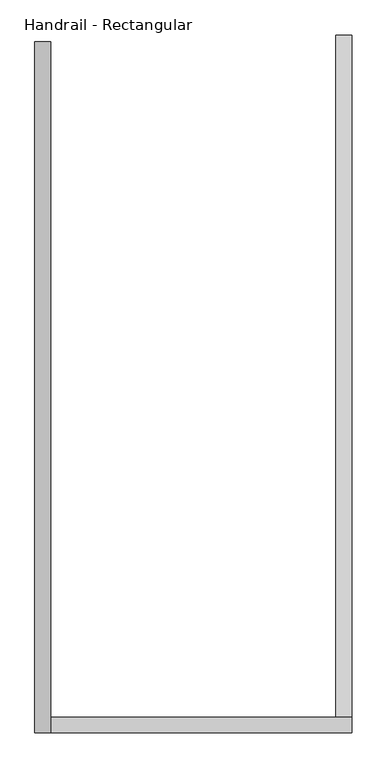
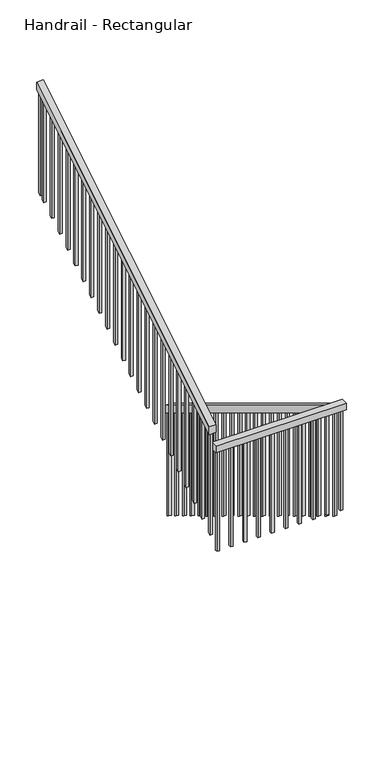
"""IFC4 building model written with IfcOpenShell, lengths in millimetres: railing geometry, Handrail - Rectangular."""

from ifc_helpers import new_model, si_unit, frame, origin, place, context, project, spatial, polyline, outline, extrude, source, transform, mapped, element, save


def handrail_rectangular_d24be025(model_context):
    return source(origin(), model_context, "Body", "SweptSolid", [
        extrude(outline(polyline([(-2968.3161799, 4131.7333333), (-2968.3161799, 4072.3318731), (-5152.7161799, 5396.210661), (-5152.7161799, 5455.6121212), (-2968.3161799, 4131.7333333)])), frame((-174.9500398, 0.0, 0.0), z_axis=(1.0, 0.0, 0.0), x_axis=(0.0, 1.0, 0.0)), (0.0, 0.0, 1.0), 50.8),
        extrude(outline(polyline([(-124.1500398, -5152.7161799), (-124.1500398, -5203.5161799), (-1089.3500398, -5203.5161799), (-1089.3500398, -5152.7161799), (-124.1500398, -5152.7161799)])), frame((0.0, 0.0, 5435.6), z_axis=(0.0, 0.0, 1.0), x_axis=(1.0, 0.0, 0.0)), (0.0, 0.0, 1.0), 50.8),
        extrude(outline(polyline([(-5203.5161799, 5596.1559175), (-5203.5161799, 5655.7333333), (-2989.5626011, 7012.2597197), (-2989.5626011, 6952.6823038), (-5203.5161799, 5596.1559175)])), frame((-1140.1500398, 0.0, 0.0), z_axis=(1.0, 0.0, 0.0), x_axis=(0.0, 1.0, 0.0)), (0.0, 0.0, 1.0), 50.8),
        extrude(outline(polyline([(-3054.0411799, 6913.1752002), (-3034.9911799, 6924.8474538), (-3034.9911799, 6113.4305054), (-3054.0411799, 6101.7582518), (-3054.0411799, 6913.1752002)])), frame((-1124.2750398, 0.0, 0.0), z_axis=(1.0, 0.0, 0.0), x_axis=(0.0, 1.0, 0.0)), (0.0, 0.0, 1.0), 19.05),
        extrude(outline(polyline([(-3155.6411799, 6850.9231809), (-3136.5911799, 6862.5954346), (-3136.5911799, 6051.1784862), (-3155.6411799, 6039.5062326), (-3155.6411799, 6850.9231809)])), frame((-1124.2750398, 0.0, 0.0), z_axis=(1.0, 0.0, 0.0), x_axis=(0.0, 1.0, 0.0)), (0.0, 0.0, 1.0), 19.05),
        extrude(outline(polyline([(-3257.2411799, 6788.6711617), (-3238.1911799, 6800.3434153), (-3238.1911799, 5988.9264669), (-3257.2411799, 5977.2542133), (-3257.2411799, 6788.6711617)])), frame((-1124.2750398, 0.0, 0.0), z_axis=(1.0, 0.0, 0.0), x_axis=(0.0, 1.0, 0.0)), (0.0, 0.0, 1.0), 19.05),
        extrude(outline(polyline([(-3358.8411799, 6726.4191424), (-3339.7911799, 6738.091396), (-3339.7911799, 5926.6744476), (-3358.8411799, 5915.002194), (-3358.8411799, 6726.4191424)])), frame((-1124.2750398, 0.0, 0.0), z_axis=(1.0, 0.0, 0.0), x_axis=(0.0, 1.0, 0.0)), (0.0, 0.0, 1.0), 19.05),
        extrude(outline(polyline([(-3460.4411799, 6664.1671231), (-3441.3911799, 6675.8393767), (-3441.3911799, 5864.4224284), (-3460.4411799, 5852.7501747), (-3460.4411799, 6664.1671231)])), frame((-1124.2750398, 0.0, 0.0), z_axis=(1.0, 0.0, 0.0), x_axis=(0.0, 1.0, 0.0)), (0.0, 0.0, 1.0), 19.05),
        extrude(outline(polyline([(-3562.0411799, 6601.9151039), (-3542.9911799, 6613.5873575), (-3542.9911799, 5802.1704091), (-3562.0411799, 5790.4981555), (-3562.0411799, 6601.9151039)])), frame((-1124.2750398, 0.0, 0.0), z_axis=(1.0, 0.0, 0.0), x_axis=(0.0, 1.0, 0.0)), (0.0, 0.0, 1.0), 19.05),
        extrude(outline(polyline([(-3663.6411799, 6539.6630846), (-3644.5911799, 6551.3353382), (-3644.5911799, 5739.9183898), (-3663.6411799, 5728.2461362), (-3663.6411799, 6539.6630846)])), frame((-1124.2750398, 0.0, 0.0), z_axis=(1.0, 0.0, 0.0), x_axis=(0.0, 1.0, 0.0)), (0.0, 0.0, 1.0), 19.05),
        extrude(outline(polyline([(-3765.2411799, 6477.4110653), (-3746.1911799, 6489.0833189), (-3746.1911799, 5677.6663705), (-3765.2411799, 5665.9941169), (-3765.2411799, 6477.4110653)])), frame((-1124.2750398, 0.0, 0.0), z_axis=(1.0, 0.0, 0.0), x_axis=(0.0, 1.0, 0.0)), (0.0, 0.0, 1.0), 19.05),
        extrude(outline(polyline([(-3866.8411799, 6415.159046), (-3847.7911799, 6426.8312997), (-3847.7911799, 5615.4143513), (-3866.8411799, 5603.7420977), (-3866.8411799, 6415.159046)])), frame((-1124.2750398, 0.0, 0.0), z_axis=(1.0, 0.0, 0.0), x_axis=(0.0, 1.0, 0.0)), (0.0, 0.0, 1.0), 19.05),
        extrude(outline(polyline([(-3968.4411799, 6352.9070268), (-3949.3911799, 6364.5792804), (-3949.3911799, 5553.162332), (-3968.4411799, 5541.4900784), (-3968.4411799, 6352.9070268)])), frame((-1124.2750398, 0.0, 0.0), z_axis=(1.0, 0.0, 0.0), x_axis=(0.0, 1.0, 0.0)), (0.0, 0.0, 1.0), 19.05),
        extrude(outline(polyline([(-4070.0411799, 6290.6550075), (-4050.9911799, 6302.3272611), (-4050.9911799, 5490.9103127), (-4070.0411799, 5479.2380591), (-4070.0411799, 6290.6550075)])), frame((-1124.2750398, 0.0, 0.0), z_axis=(1.0, 0.0, 0.0), x_axis=(0.0, 1.0, 0.0)), (0.0, 0.0, 1.0), 19.05),
        extrude(outline(polyline([(-4171.6411799, 6228.4029882), (-4152.5911799, 6240.0752418), (-4152.5911799, 5428.6582935), (-4171.6411799, 5416.9860398), (-4171.6411799, 6228.4029882)])), frame((-1124.2750398, 0.0, 0.0), z_axis=(1.0, 0.0, 0.0), x_axis=(0.0, 1.0, 0.0)), (0.0, 0.0, 1.0), 19.05),
        extrude(outline(polyline([(-4273.2411799, 6166.150969), (-4254.1911799, 6177.8232226), (-4254.1911799, 5366.4062742), (-4273.2411799, 5354.7340206), (-4273.2411799, 6166.150969)])), frame((-1124.2750398, 0.0, 0.0), z_axis=(1.0, 0.0, 0.0), x_axis=(0.0, 1.0, 0.0)), (0.0, 0.0, 1.0), 19.05),
        extrude(outline(polyline([(-4374.8411799, 6103.8989497), (-4355.7911799, 6115.5712033), (-4355.7911799, 5304.1542549), (-4374.8411799, 5292.4820013), (-4374.8411799, 6103.8989497)])), frame((-1124.2750398, 0.0, 0.0), z_axis=(1.0, 0.0, 0.0), x_axis=(0.0, 1.0, 0.0)), (0.0, 0.0, 1.0), 19.05),
        extrude(outline(polyline([(-4476.4411799, 6041.6469304), (-4457.3911799, 6053.319184), (-4457.3911799, 5241.9022356), (-4476.4411799, 5230.229982), (-4476.4411799, 6041.6469304)])), frame((-1124.2750398, 0.0, 0.0), z_axis=(1.0, 0.0, 0.0), x_axis=(0.0, 1.0, 0.0)), (0.0, 0.0, 1.0), 19.05),
        extrude(outline(polyline([(-4578.0411799, 5979.3949111), (-4558.9911799, 5991.0671648), (-4558.9911799, 5179.6502164), (-4578.0411799, 5167.9779628), (-4578.0411799, 5979.3949111)])), frame((-1124.2750398, 0.0, 0.0), z_axis=(1.0, 0.0, 0.0), x_axis=(0.0, 1.0, 0.0)), (0.0, 0.0, 1.0), 19.05),
        extrude(outline(polyline([(-4679.6411799, 5917.1428919), (-4660.5911799, 5928.8151455), (-4660.5911799, 5117.3981971), (-4679.6411799, 5105.7259435), (-4679.6411799, 5917.1428919)])), frame((-1124.2750398, 0.0, 0.0), z_axis=(1.0, 0.0, 0.0), x_axis=(0.0, 1.0, 0.0)), (0.0, 0.0, 1.0), 19.05),
        extrude(outline(polyline([(-4781.2411799, 5854.8908726), (-4762.1911799, 5866.5631262), (-4762.1911799, 5055.1461778), (-4781.2411799, 5043.4739242), (-4781.2411799, 5854.8908726)])), frame((-1124.2750398, 0.0, 0.0), z_axis=(1.0, 0.0, 0.0), x_axis=(0.0, 1.0, 0.0)), (0.0, 0.0, 1.0), 19.05),
        extrude(outline(polyline([(-4882.8411799, 5792.6388533), (-4863.7911799, 5804.311107), (-4863.7911799, 4992.8941586), (-4882.8411799, 4981.2219049), (-4882.8411799, 5792.6388533)])), frame((-1124.2750398, 0.0, 0.0), z_axis=(1.0, 0.0, 0.0), x_axis=(0.0, 1.0, 0.0)), (0.0, 0.0, 1.0), 19.05),
        extrude(outline(polyline([(-4984.4411799, 5730.3868341), (-4965.3911799, 5742.0590877), (-4965.3911799, 4930.6421393), (-4984.4411799, 4918.9698857), (-4984.4411799, 5730.3868341)])), frame((-1124.2750398, 0.0, 0.0), z_axis=(1.0, 0.0, 0.0), x_axis=(0.0, 1.0, 0.0)), (0.0, 0.0, 1.0), 19.05),
        extrude(outline(polyline([(-5086.0411799, 5668.1348148), (-5066.9911799, 5679.8070684), (-5066.9911799, 4868.39012), (-5086.0411799, 4856.7178664), (-5086.0411799, 5668.1348148)])), frame((-1124.2750398, 0.0, 0.0), z_axis=(1.0, 0.0, 0.0), x_axis=(0.0, 1.0, 0.0)), (0.0, 0.0, 1.0), 19.05),
        extrude(outline(polyline([(-1054.4250398, -5168.5911799), (-1054.4250398, -5187.6411799), (-1073.4750398, -5187.6411799), (-1073.4750398, -5168.5911799), (-1054.4250398, -5168.5911799)])), frame((0.0, 0.0, 4648.2), z_axis=(0.0, 0.0, 1.0), x_axis=(1.0, 0.0, 0.0)), (0.0, 0.0, 1.0), 787.4),
        extrude(outline(polyline([(-952.8250398, -5168.5911799), (-952.8250398, -5187.6411799), (-971.8750398, -5187.6411799), (-971.8750398, -5168.5911799), (-952.8250398, -5168.5911799)])), frame((0.0, 0.0, 4648.2), z_axis=(0.0, 0.0, 1.0), x_axis=(1.0, 0.0, 0.0)), (0.0, 0.0, 1.0), 787.4),
        extrude(outline(polyline([(-851.2250398, -5168.5911799), (-851.2250398, -5187.6411799), (-870.2750398, -5187.6411799), (-870.2750398, -5168.5911799), (-851.2250398, -5168.5911799)])), frame((0.0, 0.0, 4648.2), z_axis=(0.0, 0.0, 1.0), x_axis=(1.0, 0.0, 0.0)), (0.0, 0.0, 1.0), 787.4),
        extrude(outline(polyline([(-749.6250398, -5168.5911799), (-749.6250398, -5187.6411799), (-768.6750398, -5187.6411799), (-768.6750398, -5168.5911799), (-749.6250398, -5168.5911799)])), frame((0.0, 0.0, 4648.2), z_axis=(0.0, 0.0, 1.0), x_axis=(1.0, 0.0, 0.0)), (0.0, 0.0, 1.0), 787.4),
        extrude(outline(polyline([(-648.0250398, -5168.5911799), (-648.0250398, -5187.6411799), (-667.0750398, -5187.6411799), (-667.0750398, -5168.5911799), (-648.0250398, -5168.5911799)])), frame((0.0, 0.0, 4648.2), z_axis=(0.0, 0.0, 1.0), x_axis=(1.0, 0.0, 0.0)), (0.0, 0.0, 1.0), 787.4),
        extrude(outline(polyline([(-546.4250398, -5168.5911799), (-546.4250398, -5187.6411799), (-565.4750398, -5187.6411799), (-565.4750398, -5168.5911799), (-546.4250398, -5168.5911799)])), frame((0.0, 0.0, 4648.2), z_axis=(0.0, 0.0, 1.0), x_axis=(1.0, 0.0, 0.0)), (0.0, 0.0, 1.0), 787.4),
        extrude(outline(polyline([(-444.8250398, -5168.5911799), (-444.8250398, -5187.6411799), (-463.8750398, -5187.6411799), (-463.8750398, -5168.5911799), (-444.8250398, -5168.5911799)])), frame((0.0, 0.0, 4648.2), z_axis=(0.0, 0.0, 1.0), x_axis=(1.0, 0.0, 0.0)), (0.0, 0.0, 1.0), 787.4),
        extrude(outline(polyline([(-343.2250398, -5168.5911799), (-343.2250398, -5187.6411799), (-362.2750398, -5187.6411799), (-362.2750398, -5168.5911799), (-343.2250398, -5168.5911799)])), frame((0.0, 0.0, 4648.2), z_axis=(0.0, 0.0, 1.0), x_axis=(1.0, 0.0, 0.0)), (0.0, 0.0, 1.0), 787.4),
        extrude(outline(polyline([(-241.6250398, -5168.5911799), (-241.6250398, -5187.6411799), (-260.6750398, -5187.6411799), (-260.6750398, -5168.5911799), (-241.6250398, -5168.5911799)])), frame((0.0, 0.0, 4648.2), z_axis=(0.0, 0.0, 1.0), x_axis=(1.0, 0.0, 0.0)), (0.0, 0.0, 1.0), 787.4),
        extrude(outline(polyline([(-5111.4411799, 5371.1955094), (-5092.3911799, 5359.6500549), (-5092.3911799, 4547.4326938), (-5111.4411799, 4558.9781483), (-5111.4411799, 5371.1955094)])), frame((-159.0750398, 0.0, 0.0), z_axis=(1.0, 0.0, 0.0), x_axis=(0.0, 1.0, 0.0)), (0.0, 0.0, 1.0), 19.05),
        extrude(outline(polyline([(-5009.8411799, 5309.6197519), (-4990.7911799, 5298.0742973), (-4990.7911799, 4485.8569362), (-5009.8411799, 4497.4023907), (-5009.8411799, 5309.6197519)])), frame((-159.0750398, 0.0, 0.0), z_axis=(1.0, 0.0, 0.0), x_axis=(0.0, 1.0, 0.0)), (0.0, 0.0, 1.0), 19.05),
        extrude(outline(polyline([(-4908.2411799, 5248.0439943), (-4889.1911799, 5236.4985397), (-4889.1911799, 4424.2811786), (-4908.2411799, 4435.8266332), (-4908.2411799, 5248.0439943)])), frame((-159.0750398, 0.0, 0.0), z_axis=(1.0, 0.0, 0.0), x_axis=(0.0, 1.0, 0.0)), (0.0, 0.0, 1.0), 19.05),
        extrude(outline(polyline([(-4806.6411799, 5186.4682367), (-4787.5911799, 5174.9227822), (-4787.5911799, 4362.7054211), (-4806.6411799, 4374.2508756), (-4806.6411799, 5186.4682367)])), frame((-159.0750398, 0.0, 0.0), z_axis=(1.0, 0.0, 0.0), x_axis=(0.0, 1.0, 0.0)), (0.0, 0.0, 1.0), 19.05),
        extrude(outline(polyline([(-4705.0411799, 5124.8924791), (-4685.9911799, 5113.3470246), (-4685.9911799, 4301.1296635), (-4705.0411799, 4312.675118), (-4705.0411799, 5124.8924791)])), frame((-159.0750398, 0.0, 0.0), z_axis=(1.0, 0.0, 0.0), x_axis=(0.0, 1.0, 0.0)), (0.0, 0.0, 1.0), 19.05),
        extrude(outline(polyline([(-4603.4411799, 5063.3167216), (-4584.3911799, 5051.771267), (-4584.3911799, 4239.5539059), (-4603.4411799, 4251.0993604), (-4603.4411799, 5063.3167216)])), frame((-159.0750398, 0.0, 0.0), z_axis=(1.0, 0.0, 0.0), x_axis=(0.0, 1.0, 0.0)), (0.0, 0.0, 1.0), 19.05),
        extrude(outline(polyline([(-4501.8411799, 5001.740964), (-4482.7911799, 4990.1955094), (-4482.7911799, 4177.9781483), (-4501.8411799, 4189.5236029), (-4501.8411799, 5001.740964)])), frame((-159.0750398, 0.0, 0.0), z_axis=(1.0, 0.0, 0.0), x_axis=(0.0, 1.0, 0.0)), (0.0, 0.0, 1.0), 19.05),
        extrude(outline(polyline([(-4400.2411799, 4940.1652064), (-4381.1911799, 4928.6197519), (-4381.1911799, 4116.4023907), (-4400.2411799, 4127.9478453), (-4400.2411799, 4940.1652064)])), frame((-159.0750398, 0.0, 0.0), z_axis=(1.0, 0.0, 0.0), x_axis=(0.0, 1.0, 0.0)), (0.0, 0.0, 1.0), 19.05),
        extrude(outline(polyline([(-4298.6411799, 4878.5894488), (-4279.5911799, 4867.0439943), (-4279.5911799, 4054.8266332), (-4298.6411799, 4066.3720877), (-4298.6411799, 4878.5894488)])), frame((-159.0750398, 0.0, 0.0), z_axis=(1.0, 0.0, 0.0), x_axis=(0.0, 1.0, 0.0)), (0.0, 0.0, 1.0), 19.05),
        extrude(outline(polyline([(-4197.0411799, 4817.0136913), (-4177.9911799, 4805.4682367), (-4177.9911799, 3993.2508756), (-4197.0411799, 4004.7963301), (-4197.0411799, 4817.0136913)])), frame((-159.0750398, 0.0, 0.0), z_axis=(1.0, 0.0, 0.0), x_axis=(0.0, 1.0, 0.0)), (0.0, 0.0, 1.0), 19.05),
        extrude(outline(polyline([(-4095.4411799, 4755.4379337), (-4076.3911799, 4743.8924791), (-4076.3911799, 3931.675118), (-4095.4411799, 3943.2205726), (-4095.4411799, 4755.4379337)])), frame((-159.0750398, 0.0, 0.0), z_axis=(1.0, 0.0, 0.0), x_axis=(0.0, 1.0, 0.0)), (0.0, 0.0, 1.0), 19.05),
        extrude(outline(polyline([(-3993.8411799, 4693.8621761), (-3974.7911799, 4682.3167216), (-3974.7911799, 3870.0993604), (-3993.8411799, 3881.644815), (-3993.8411799, 4693.8621761)])), frame((-159.0750398, 0.0, 0.0), z_axis=(1.0, 0.0, 0.0), x_axis=(0.0, 1.0, 0.0)), (0.0, 0.0, 1.0), 19.05),
        extrude(outline(polyline([(-3892.2411799, 4632.2864185), (-3873.1911799, 4620.740964), (-3873.1911799, 3808.5236029), (-3892.2411799, 3820.0690574), (-3892.2411799, 4632.2864185)])), frame((-159.0750398, 0.0, 0.0), z_axis=(1.0, 0.0, 0.0), x_axis=(0.0, 1.0, 0.0)), (0.0, 0.0, 1.0), 19.05),
        extrude(outline(polyline([(-3790.6411799, 4570.710661), (-3771.5911799, 4559.1652064), (-3771.5911799, 3746.9478453), (-3790.6411799, 3758.4932998), (-3790.6411799, 4570.710661)])), frame((-159.0750398, 0.0, 0.0), z_axis=(1.0, 0.0, 0.0), x_axis=(0.0, 1.0, 0.0)), (0.0, 0.0, 1.0), 19.05),
        extrude(outline(polyline([(-3689.0411799, 4509.1349034), (-3669.9911799, 4497.5894488), (-3669.9911799, 3685.3720877), (-3689.0411799, 3696.9175423), (-3689.0411799, 4509.1349034)])), frame((-159.0750398, 0.0, 0.0), z_axis=(1.0, 0.0, 0.0), x_axis=(0.0, 1.0, 0.0)), (0.0, 0.0, 1.0), 19.05),
        extrude(outline(polyline([(-3587.4411799, 4447.5591458), (-3568.3911799, 4436.0136913), (-3568.3911799, 3623.7963301), (-3587.4411799, 3635.3417847), (-3587.4411799, 4447.5591458)])), frame((-159.0750398, 0.0, 0.0), z_axis=(1.0, 0.0, 0.0), x_axis=(0.0, 1.0, 0.0)), (0.0, 0.0, 1.0), 19.05),
        extrude(outline(polyline([(-3485.8411799, 4385.9833882), (-3466.7911799, 4374.4379337), (-3466.7911799, 3562.2205726), (-3485.8411799, 3573.7660271), (-3485.8411799, 4385.9833882)])), frame((-159.0750398, 0.0, 0.0), z_axis=(1.0, 0.0, 0.0), x_axis=(0.0, 1.0, 0.0)), (0.0, 0.0, 1.0), 19.05),
        extrude(outline(polyline([(-3384.2411799, 4324.4076307), (-3365.1911799, 4312.8621761), (-3365.1911799, 3500.644815), (-3384.2411799, 3512.1902695), (-3384.2411799, 4324.4076307)])), frame((-159.0750398, 0.0, 0.0), z_axis=(1.0, 0.0, 0.0), x_axis=(0.0, 1.0, 0.0)), (0.0, 0.0, 1.0), 19.05),
        extrude(outline(polyline([(-3282.6411799, 4262.8318731), (-3263.5911799, 4251.2864185), (-3263.5911799, 3439.0690574), (-3282.6411799, 3450.614512), (-3282.6411799, 4262.8318731)])), frame((-159.0750398, 0.0, 0.0), z_axis=(1.0, 0.0, 0.0), x_axis=(0.0, 1.0, 0.0)), (0.0, 0.0, 1.0), 19.05),
        extrude(outline(polyline([(-3181.0411799, 4201.2561155), (-3161.9911799, 4189.710661), (-3161.9911799, 3377.4932998), (-3181.0411799, 3389.0387544), (-3181.0411799, 4201.2561155)])), frame((-159.0750398, 0.0, 0.0), z_axis=(1.0, 0.0, 0.0), x_axis=(0.0, 1.0, 0.0)), (0.0, 0.0, 1.0), 19.05),
        extrude(outline(polyline([(-3079.4411799, 4139.6803579), (-3060.3911799, 4128.1349034), (-3060.3911799, 3315.9175423), (-3079.4411799, 3327.4629968), (-3079.4411799, 4139.6803579)])), frame((-159.0750398, 0.0, 0.0), z_axis=(1.0, 0.0, 0.0), x_axis=(0.0, 1.0, 0.0)), (0.0, 0.0, 1.0), 19.05),
        extrude(outline(polyline([(-5187.6411799, 5605.8827955), (-5168.5911799, 5617.5550491), (-5168.5911799, 4806.1381007), (-5187.6411799, 4794.4658471), (-5187.6411799, 5605.8827955)])), frame((-1124.2750398, 0.0, 0.0), z_axis=(1.0, 0.0, 0.0), x_axis=(0.0, 1.0, 0.0)), (0.0, 0.0, 1.0), 19.05),
        extrude(outline(polyline([(-140.0250398, -5168.5911799), (-140.0250398, -5187.6411799), (-159.0750398, -5187.6411799), (-159.0750398, -5168.5911799), (-140.0250398, -5168.5911799)])), frame((0.0, 0.0, 4648.2), z_axis=(0.0, 0.0, 1.0), x_axis=(1.0, 0.0, 0.0)), (0.0, 0.0, 1.0), 787.4),
        extrude(outline(polyline([(-3008.6126011, 6941.0100502), (-2989.5626011, 6952.6823038), (-2989.5626011, 6141.2653555), (-3008.6126011, 6129.5931018), (-3008.6126011, 6941.0100502)])), frame((-1124.2750398, 0.0, 0.0), z_axis=(1.0, 0.0, 0.0), x_axis=(0.0, 1.0, 0.0)), (0.0, 0.0, 1.0), 19.05),
        extrude(outline(polyline([(-2987.3661799, 4083.8773276), (-2968.3161799, 4072.3318731), (-2968.3161799, 3260.114512), (-2987.3661799, 3271.6599665), (-2987.3661799, 4083.8773276)])), frame((-159.0750398, 0.0, 0.0), z_axis=(1.0, 0.0, 0.0), x_axis=(0.0, 1.0, 0.0)), (0.0, 0.0, 1.0), 19.05),
    ])


if __name__ == "__main__":
    model = new_model("IFC4")
    model_context = context("Model", 3, world=origin())
    ifc_project = project(units=[si_unit("LENGTHUNIT", "METRE", prefix="MILLI")], contexts=[model_context])
    site = spatial("IfcSite", under=ifc_project)
    building = spatial("IfcBuilding", under=site)
    placement = place(None, origin())
    handrail_rectangular_shape = handrail_rectangular_d24be025(model_context)
    element("IfcRailing", 1, ObjectType="Handrail - Rectangular", at=placement, inside=building, context=model_context, shape_type="MappedRepresentation", body=[
        mapped(handrail_rectangular_shape, transform((0.0, 0.0, 0.0), x_axis=(1.0, 0.0, 0.0), y_axis=(0.0, 1.0, 0.0), z_axis=(0.0, 0.0, 1.0))),
    ])
    save(model, "model.ifc")
